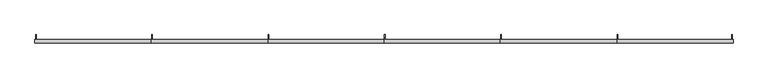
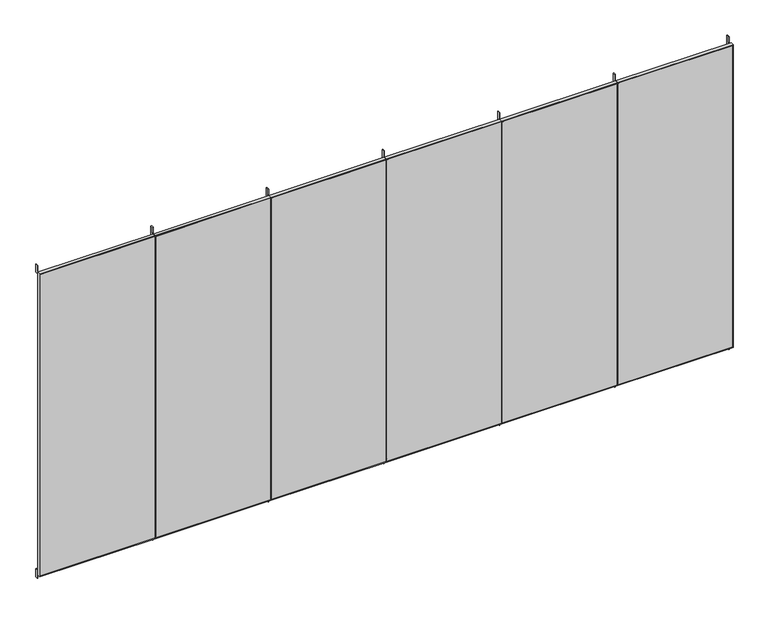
"""IFC4 building model written with IfcOpenShell, lengths in millimetres: furniture geometry, H06 Protección 6 módulos : H6.1 Protección 6 módulos 670x315."""

from ifc_helpers import new_model, si_unit, frame, origin, place, context, project, spatial, polyline, outline, extrude, source, transform, mapped, element, save


def furniture_6fc450c9(model_context):
    return source(origin(), model_context, "Body", "SweptSolid", [
        extrude(outline(polyline([(3100.0, 3344.7003264), (3100.0, 2244.7003264), (50.0, 2244.7003264), (50.0, 3344.7003264), (3100.0, 3344.7003264)]), holes=[polyline([(3093.0, 3341.2003264), (57.0, 3341.2003264), (57.0, 2248.2003264), (3093.0, 2248.2003264), (3093.0, 3341.2003264)])]), frame((0.0, -600.0, 0.0), z_axis=(0.0, 1.0, 0.0), x_axis=(0.0, 0.0, 1.0)), (0.0, 0.0, 1.0), 32.0),
        extrude(outline(polyline([(3341.2003264, -600.0), (2248.2003264, -600.0), (2248.2003264, -597.0), (3341.2003264, -597.0), (3341.2003264, -600.0)])), frame((0.0, 0.0, 57.0), z_axis=(0.0, 0.0, 1.0), x_axis=(1.0, 0.0, 0.0)), (0.0, 0.0, 1.0), 3036.0),
        extrude(outline(polyline([(3100.0, 2244.7003264), (3100.0, 1144.7003264), (50.0, 1144.7003264), (50.0, 2244.7003264), (3100.0, 2244.7003264)]), holes=[polyline([(3093.0, 2241.2003264), (57.0, 2241.2003264), (57.0, 1148.2003264), (3093.0, 1148.2003264), (3093.0, 2241.2003264)])]), frame((0.0, -600.0, 0.0), z_axis=(0.0, 1.0, 0.0), x_axis=(0.0, 0.0, 1.0)), (0.0, 0.0, 1.0), 32.0),
        extrude(outline(polyline([(2241.2003264, -600.0), (1148.2003264, -600.0), (1148.2003264, -597.0), (2241.2003264, -597.0), (2241.2003264, -600.0)])), frame((0.0, 0.0, 57.0), z_axis=(0.0, 0.0, 1.0), x_axis=(1.0, 0.0, 0.0)), (0.0, 0.0, 1.0), 3036.0),
        extrude(outline(polyline([(3100.0, 44.7003264), (3100.0, -1055.2996736), (50.0, -1055.2996736), (50.0, 44.7003264), (3100.0, 44.7003264)]), holes=[polyline([(3093.0, 41.2003264), (57.0, 41.2003264), (57.0, -1051.7996736), (3093.0, -1051.7996736), (3093.0, 41.2003264)])]), frame((0.0, -600.0, 0.0), z_axis=(0.0, 1.0, 0.0), x_axis=(0.0, 0.0, 1.0)), (0.0, 0.0, 1.0), 32.0),
        extrude(outline(polyline([(4437.7003264, -600.0), (3348.2003264, -600.0), (3348.2003264, -597.0), (4437.7003264, -597.0), (4437.7003264, -600.0)])), frame((0.0, 0.0, 57.0), z_axis=(0.0, 0.0, 1.0), x_axis=(1.0, 0.0, 0.0)), (0.0, 0.0, 1.0), 3036.0),
        extrude(outline(polyline([(3100.0, 4444.7003264), (3100.0, 3344.7003264), (50.0, 3344.7003264), (50.0, 4444.7003264), (3100.0, 4444.7003264)]), holes=[polyline([(3093.0, 4437.7003264), (57.0, 4437.7003264), (57.0, 3348.2003264), (3093.0, 3348.2003264), (3093.0, 4437.7003264)])]), frame((0.0, -600.0, 0.0), z_axis=(0.0, 1.0, 0.0), x_axis=(0.0, 0.0, 1.0)), (0.0, 0.0, 1.0), 32.0),
        extrude(outline(polyline([(1141.2003264, -600.0), (48.2003264, -600.0), (48.2003264, -597.0), (1141.2003264, -597.0), (1141.2003264, -600.0)])), frame((0.0, 0.0, 57.0), z_axis=(0.0, 0.0, 1.0), x_axis=(1.0, 0.0, 0.0)), (0.0, 0.0, 1.0), 3036.0),
        extrude(outline(polyline([(3100.0, 1144.7003264), (3100.0, 44.7003264), (50.0, 44.7003264), (50.0, 1144.7003264), (3100.0, 1144.7003264)]), holes=[polyline([(3093.0, 1141.2003264), (57.0, 1141.2003264), (57.0, 48.2003264), (3093.0, 48.2003264), (3093.0, 1141.2003264)])]), frame((0.0, -600.0, 0.0), z_axis=(0.0, 1.0, 0.0), x_axis=(0.0, 0.0, 1.0)), (0.0, 0.0, 1.0), 32.0),
        extrude(outline(polyline([(41.2003264, -600.0), (-1051.7996736, -600.0), (-1051.7996736, -597.0), (41.2003264, -597.0), (41.2003264, -600.0)])), frame((0.0, 0.0, 57.0), z_axis=(0.0, 0.0, 1.0), x_axis=(1.0, 0.0, 0.0)), (0.0, 0.0, 1.0), 3036.0),
        extrude(outline(polyline([(-1058.7996736, -600.0), (-2148.2996736, -600.0), (-2148.2996736, -597.0), (-1058.7996736, -597.0), (-1058.7996736, -600.0)])), frame((0.0, 0.0, 57.0), z_axis=(0.0, 0.0, 1.0), x_axis=(1.0, 0.0, 0.0)), (0.0, 0.0, 1.0), 3036.0),
        extrude(outline(polyline([(3100.0, -1055.2996736), (3100.0, -2155.2996736), (50.0, -2155.2996736), (50.0, -1055.2996736), (3100.0, -1055.2996736)]), holes=[polyline([(3093.0, -1058.7996736), (57.0, -1058.7996736), (57.0, -2148.2996736), (3093.0, -2148.2996736), (3093.0, -1058.7996736)])]), frame((0.0, -600.0, 0.0), z_axis=(0.0, 1.0, 0.0), x_axis=(0.0, 0.0, 1.0)), (0.0, 0.0, 1.0), 32.0),
        extrude(outline(polyline([(-522.0, 3068.0), (-597.0, 3068.0), (-597.0, 3093.0), (-547.0, 3093.0), (-547.0, 3150.0), (-522.0, 3150.0), (-522.0, 3068.0)])), frame((2248.2003264, 0.0, 0.0), z_axis=(1.0, 0.0, 0.0), x_axis=(0.0, 1.0, 0.0)), (0.0, 0.0, 1.0), 7.0),
        extrude(outline(polyline([(-522.0, 82.0), (-522.0, 0.0), (-547.0, 0.0), (-547.0, 57.0), (-597.0, 57.0), (-597.0, 82.0), (-522.0, 82.0)])), frame((2248.2003264, 0.0, 0.0), z_axis=(1.0, 0.0, 0.0), x_axis=(0.0, 1.0, 0.0)), (0.0, 0.0, 1.0), 7.0),
        extrude(outline(polyline([(-522.0, 3068.0), (-597.0, 3068.0), (-597.0, 3093.0), (-547.0, 3093.0), (-547.0, 3150.0), (-522.0, 3150.0), (-522.0, 3068.0)])), frame((3348.2003264, 0.0, 0.0), z_axis=(1.0, 0.0, 0.0), x_axis=(0.0, 1.0, 0.0)), (0.0, 0.0, 1.0), 7.0),
        extrude(outline(polyline([(-522.0, 82.0), (-522.0, 0.0), (-547.0, 0.0), (-547.0, 57.0), (-597.0, 57.0), (-597.0, 82.0), (-522.0, 82.0)])), frame((3348.2003264, 0.0, 0.0), z_axis=(1.0, 0.0, 0.0), x_axis=(0.0, 1.0, 0.0)), (0.0, 0.0, 1.0), 7.0),
        extrude(outline(polyline([(-522.0, 3068.0), (-597.0, 3068.0), (-597.0, 3093.0), (-547.0, 3093.0), (-547.0, 3150.0), (-522.0, 3150.0), (-522.0, 3068.0)])), frame((-2148.2996736, 0.0, 0.0), z_axis=(1.0, 0.0, 0.0), x_axis=(0.0, 1.0, 0.0)), (0.0, 0.0, 1.0), 7.0),
        extrude(outline(polyline([(-522.0, 3068.0), (-597.0, 3068.0), (-597.0, 3093.0), (-547.0, 3093.0), (-547.0, 3150.0), (-522.0, 3150.0), (-522.0, 3068.0)])), frame((-1051.7996736, 0.0, 0.0), z_axis=(1.0, 0.0, 0.0), x_axis=(0.0, 1.0, 0.0)), (0.0, 0.0, 1.0), 7.0),
        extrude(outline(polyline([(-522.0, 3068.0), (-597.0, 3068.0), (-597.0, 3093.0), (-547.0, 3093.0), (-547.0, 3150.0), (-522.0, 3150.0), (-522.0, 3068.0)])), frame((4430.7003264, 0.0, 0.0), z_axis=(1.0, 0.0, 0.0), x_axis=(0.0, 1.0, 0.0)), (0.0, 0.0, 1.0), 7.0),
        extrude(outline(polyline([(-522.0, 3068.0), (-597.0, 3068.0), (-597.0, 3093.0), (-547.0, 3093.0), (-547.0, 3150.0), (-522.0, 3150.0), (-522.0, 3068.0)])), frame((1148.2003264, 0.0, 0.0), z_axis=(1.0, 0.0, 0.0), x_axis=(0.0, 1.0, 0.0)), (0.0, 0.0, 1.0), 7.0),
        extrude(outline(polyline([(-522.0, 82.0), (-522.0, 0.0), (-547.0, 0.0), (-547.0, 57.0), (-597.0, 57.0), (-597.0, 82.0), (-522.0, 82.0)])), frame((4430.7003264, 0.0, 0.0), z_axis=(1.0, 0.0, 0.0), x_axis=(0.0, 1.0, 0.0)), (0.0, 0.0, 1.0), 7.0),
        extrude(outline(polyline([(-522.0, 82.0), (-522.0, 0.0), (-547.0, 0.0), (-547.0, 57.0), (-597.0, 57.0), (-597.0, 82.0), (-522.0, 82.0)])), frame((1148.2003264, 0.0, 0.0), z_axis=(1.0, 0.0, 0.0), x_axis=(0.0, 1.0, 0.0)), (0.0, 0.0, 1.0), 7.0),
        extrude(outline(polyline([(-522.0, 82.0), (-522.0, 0.0), (-547.0, 0.0), (-547.0, 57.0), (-597.0, 57.0), (-597.0, 82.0), (-522.0, 82.0)])), frame((-2148.2996736, 0.0, 0.0), z_axis=(1.0, 0.0, 0.0), x_axis=(0.0, 1.0, 0.0)), (0.0, 0.0, 1.0), 7.0),
        extrude(outline(polyline([(-522.0, 82.0), (-522.0, 0.0), (-547.0, 0.0), (-547.0, 57.0), (-597.0, 57.0), (-597.0, 82.0), (-522.0, 82.0)])), frame((-1051.7996736, 0.0, 0.0), z_axis=(1.0, 0.0, 0.0), x_axis=(0.0, 1.0, 0.0)), (0.0, 0.0, 1.0), 7.0),
        extrude(outline(polyline([(-522.0, 3068.0), (-597.0, 3068.0), (-597.0, 3093.0), (-547.0, 3093.0), (-547.0, 3150.0), (-522.0, 3150.0), (-522.0, 3068.0)])), frame((48.2003264, 0.0, 0.0), z_axis=(1.0, 0.0, 0.0), x_axis=(0.0, 1.0, 0.0)), (0.0, 0.0, 1.0), 7.0),
        extrude(outline(polyline([(-522.0, 82.0), (-522.0, 0.0), (-547.0, 0.0), (-547.0, 57.0), (-597.0, 57.0), (-597.0, 82.0), (-522.0, 82.0)])), frame((48.2003264, 0.0, 0.0), z_axis=(1.0, 0.0, 0.0), x_axis=(0.0, 1.0, 0.0)), (0.0, 0.0, 1.0), 7.0),
    ])


if __name__ == "__main__":
    model = new_model("IFC4")
    model_context = context("Model", 3, world=origin())
    ifc_project = project(units=[si_unit("LENGTHUNIT", "METRE", prefix="MILLI")], contexts=[model_context])
    site = spatial("IfcSite", under=ifc_project)
    building = spatial("IfcBuilding", under=site)
    placement = place(None, origin())
    furniture_shape = furniture_6fc450c9(model_context)
    element("IfcFurniture", 1, ObjectType="H06 Protección 6 módulos : H6.1 Protección 6 módulos 670x315", at=placement, inside=building, context=model_context, shape_type="MappedRepresentation", body=[
        mapped(furniture_shape, transform((0.0, 0.0, 0.0), x_axis=(1.0, 0.0, 0.0), y_axis=(0.0, 1.0, 0.0), z_axis=(0.0, 0.0, 1.0))),
    ])
    save(model, "model.ifc")
